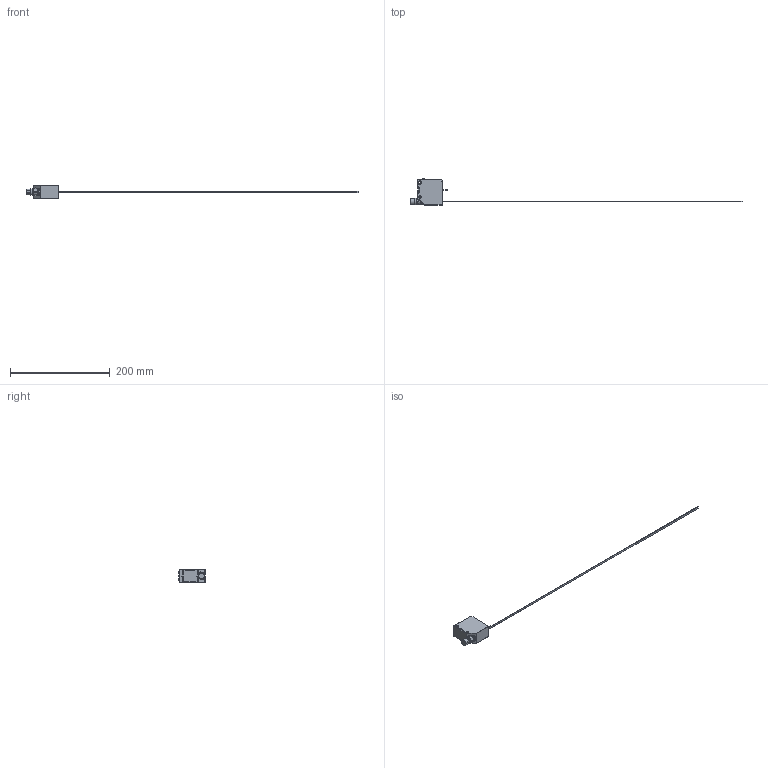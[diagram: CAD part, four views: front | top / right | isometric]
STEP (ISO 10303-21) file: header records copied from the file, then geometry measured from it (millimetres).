
FILE_DESCRIPTION(/* description */ (''),/* implementation_level */ '2;1');
FILE_NAME(/* name */ '624-41008_FT 55-RL2AM-480-PNSUIDL-L5M.stp',/* time_stamp */ '2023-10-05T13:15:01+02:00',/* author */ ('Sandra.Stahl'),/* organization */ (''),/* preprocessor_version */ 'ST-DEVELOPER v19.2',/* originating_system */ 'Autodesk Inventor 2023',/* authorisation */ '');
FILE_SCHEMA (('AUTOMOTIVE_DESIGN { 1 0 10303 214 3 1 1 }'));
Length unit declared in the file: millimetre
Products named in the file (1): GH-ENG-0039597_Vereinfachen_1
Bounding box: 664.52 x 52.11 x 25 mm (x, y, z)
Volume: 63958.9 mm3; surface area: 17963.7 mm2
Topology: 4 solids, 4 shells, 252 faces, 611 edges, 382 vertices
Faces by surface type: plane 93, cylinder 49, cone 42, bspline 30, sphere 20, torus 18
Full cylindrical faces by diameter (mm): 1 x1, 4.1 x3, 8.9 x1, 13 x1, 15.5 x1
Entity records: 9365 total; most frequent: CARTESIAN_POINT 3341, ORIENTED_EDGE 1218, DIRECTION 1147, EDGE_CURVE 609, AXIS2_PLACEMENT_3D 446, VERTEX_POINT 381, EDGE_LOOP 272, STYLED_ITEM 256
